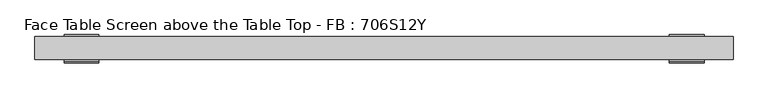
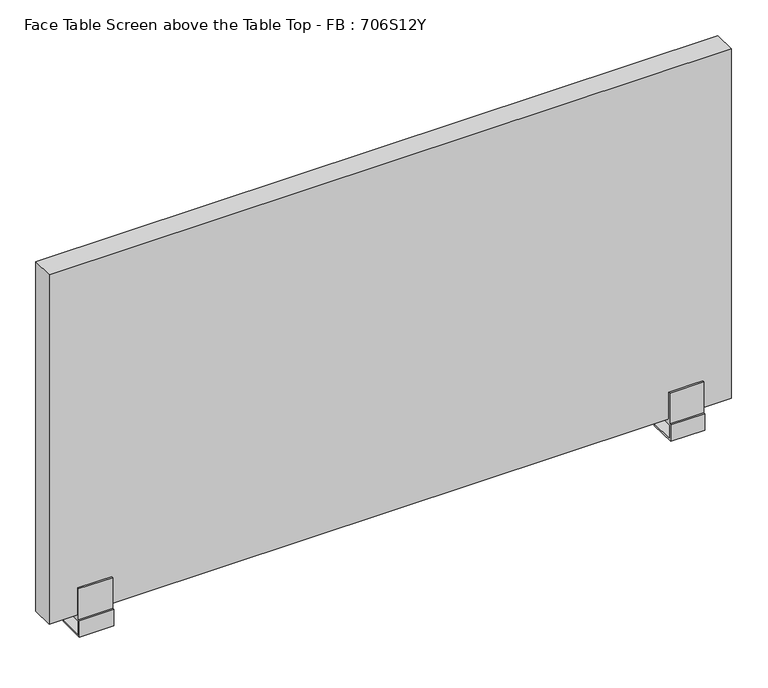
"""IFC4 building model written with IfcOpenShell, lengths in millimetres: furniture geometry, Face Table Screen above the Table Top - FB : 706S12Y."""

import ifcopenshell
import ifcopenshell.guid

model = None  # the IFC model being written
_history = None  # IfcOwnerHistory: only IFC2X3 demands one
_inside = {}  # id of a spatial element -> (the spatial element, [elements in it])
_under = {}  # id of a project, library or spatial element -> (it, [spatial elements below it])
_declared = {}  # id of a project -> (the project, [libraries it declares])
_typed = {}  # id of a type object -> (the type object, [elements of that type])
_made_of = {}  # id of a material, layer set ... -> (it, [elements and type objects made of it])


def new_model(schema):
    """Start an empty IFC model of exactly this schema.

    Asked for "IFC4X3", IfcOpenShell would pick the latest addendum, in which some entities
    have other attributes; the version numbers below select the first issue.
    IFC2X3 requires an IfcOwnerHistory on every rooted entity: one is made here for all.
    """
    global model, _history
    if schema == "IFC4X3":
        model = ifcopenshell.file(schema_version=(4, 3, 0, 0))
    else:
        model = ifcopenshell.file(schema=schema)
    _inside.clear()
    _under.clear()
    _declared.clear()
    _typed.clear()
    _made_of.clear()
    _history = None
    if model.schema == "IFC2X3":
        org = make("IfcOrganization", Name="unknown")
        user = make(
            "IfcPersonAndOrganization",
            ThePerson=make("IfcPerson", FamilyName="unknown"),
            TheOrganization=org,
        )
        app = make(
            "IfcApplication",
            ApplicationDeveloper=org,
            Version="unknown",
            ApplicationFullName="unknown",
            ApplicationIdentifier="unknown",
        )
        _history = make(
            "IfcOwnerHistory",
            OwningUser=user,
            OwningApplication=app,
            ChangeAction="ADDED",
            CreationDate=0,
        )
    return model


def make(cls, **values):
    """One entity of the class cls with the attributes given. An attribute that is None is left unset."""
    return model.create_entity(
        cls, **{name: value for name, value in values.items() if value is not None}
    )


def rooted(cls, **values):
    """An entity with a GlobalId (a new one), such as an element, a storey or a relation."""
    return make(cls, GlobalId=ifcopenshell.guid.new(), OwnerHistory=_history, **values)


def si_unit(unit_type, name, prefix=None):
    """IfcSIUnit, for example si_unit("LENGTHUNIT", "METRE", prefix="MILLI")."""
    return make("IfcSIUnit", UnitType=unit_type, Prefix=prefix, Name=name)


def assignment(units):
    """IfcUnitAssignment: the units of a project."""
    return None if units is None else make("IfcUnitAssignment", Units=units)


def point(xyz):
    """IfcCartesianPoint."""
    return None if xyz is None else make("IfcCartesianPoint", Coordinates=xyz)


def direction(xyz):
    """IfcDirection."""
    return None if xyz is None else make("IfcDirection", DirectionRatios=xyz)


def frame(location, z_axis=None, x_axis=None):
    """IfcAxis2Placement3D, a coordinate frame: its origin and axes. An axis left out is left unset."""
    return make(
        "IfcAxis2Placement3D",
        Location=point(location),
        Axis=direction(z_axis),
        RefDirection=direction(x_axis),
    )


def origin():
    """The frame at (0, 0, 0) with its axes left unset."""
    return frame((0.0, 0.0, 0.0))


def place(relative_to, where):
    """IfcLocalPlacement: puts the frame where relative to a parent placement (None: the world)."""
    return make(
        "IfcLocalPlacement", PlacementRelTo=relative_to, RelativePlacement=where
    )


def context(
    kind, dimensions, precision=None, world=None, true_north=None, identifier=None
):
    """IfcGeometricRepresentationContext, for example the 3D "Model" context."""
    return make(
        "IfcGeometricRepresentationContext",
        ContextIdentifier=identifier,
        ContextType=kind,
        CoordinateSpaceDimension=dimensions,
        Precision=precision,
        WorldCoordinateSystem=world,
        TrueNorth=true_north,
    )


def project(units=None, contexts=None):
    """IfcProject with its units and contexts."""
    return rooted(
        "IfcProject",
        Name="project",
        RepresentationContexts=contexts,
        UnitsInContext=assignment(units),
    )


def spatial(cls, under=None, at=None, **own):
    """A site, building, storey or space (cls), placed at a placement, below another one or the project."""
    s = rooted(cls, ObjectPlacement=at, **own)
    if under is not None:
        _under.setdefault(under.id(), (under, []))[1].append(s)
    return s


def polyline(points):
    """IfcPolyline through the points."""
    return make("IfcPolyline", Points=[point(p) for p in points])


def circle_curve(where, radius):
    """IfcCircle in the frame where."""
    return make("IfcCircle", Position=where, Radius=radius)


def outline(outer, holes=None, kind="AREA"):
    """IfcArbitraryClosedProfileDef: a profile drawn as a closed curve; with holes, ...WithVoids."""
    if holes is None:
        return make("IfcArbitraryClosedProfileDef", ProfileType=kind, OuterCurve=outer)
    return make(
        "IfcArbitraryProfileDefWithVoids",
        ProfileType=kind,
        OuterCurve=outer,
        InnerCurves=holes,
    )


def extrude(swept, where, along, depth):
    """IfcExtrudedAreaSolid: the profile swept, set in the frame where, extruded along a direction by depth."""
    return make(
        "IfcExtrudedAreaSolid",
        SweptArea=swept,
        Position=where,
        ExtrudedDirection=direction(along),
        Depth=depth,
    )


def shape(context_of_items, identifier, shape_type, items):
    """IfcShapeRepresentation: the items that make up one representation, for example the "Body"."""
    return make(
        "IfcShapeRepresentation",
        ContextOfItems=context_of_items,
        RepresentationIdentifier=identifier,
        RepresentationType=shape_type,
        Items=items,
    )


def source(mapping_origin, context_of_items, identifier, shape_type, items):
    """IfcRepresentationMap: a shape defined once, which mapped items show again and again."""
    return make(
        "IfcRepresentationMap",
        MappingOrigin=mapping_origin,
        MappedRepresentation=shape(context_of_items, identifier, shape_type, items),
    )


def transform(
    local_origin,
    x_axis=None,
    y_axis=None,
    z_axis=None,
    scale=None,
    scale2=None,
    scale3=None,
    uniform=True,
):
    """IfcCartesianTransformationOperator3D, or its non-uniform kind. x_axis, y_axis, z_axis: its Axis1, 2, 3."""
    if uniform:
        return make(
            "IfcCartesianTransformationOperator3D",
            Axis1=direction(x_axis),
            Axis2=direction(y_axis),
            LocalOrigin=point(local_origin),
            Scale=scale,
            Axis3=direction(z_axis),
        )
    return make(
        "IfcCartesianTransformationOperator3DnonUniform",
        Axis1=direction(x_axis),
        Axis2=direction(y_axis),
        LocalOrigin=point(local_origin),
        Scale=scale,
        Axis3=direction(z_axis),
        Scale2=scale2,
        Scale3=scale3,
    )


def mapped(mapping_source, mapping_target):
    """IfcMappedItem: shows the shape of a source again, moved by a transform."""
    return make(
        "IfcMappedItem", MappingSource=mapping_source, MappingTarget=mapping_target
    )


def made_of(thing, what):
    """Note that an element or type object is made of a material, layer set ...; save() writes the relation."""
    if what is not None:
        _made_of.setdefault(what.id(), (what, []))[1].append(thing)
    return thing


def element(
    cls,
    number,
    at=None,
    inside=None,
    cuts=None,
    type_object=None,
    material=None,
    context=None,
    identifier="Body",
    shape_type=None,
    held_by="IfcProductDefinitionShape",
    body=None,
    shapes=None,
    **own,
):
    """One element of the class cls, such as IfcWall. Its Tag is "e" and its number.

    at: its placement. inside: the storey or other place that contains it. cuts: it is an
    opening in that element (IfcRelVoidsElement). A single representation is given by context,
    identifier, shape_type and body (its items); several are given by shapes. held_by: the class
    of the entity that holds the representations. save() writes the other relations.
    """
    e = rooted(cls, Tag="e%d" % number, ObjectPlacement=at, **own)
    if body is not None:
        shapes = [shape(context, identifier, shape_type, body)]
    if shapes is not None:
        e.Representation = make(held_by, Representations=shapes)
    if inside is not None:
        _inside.setdefault(inside.id(), (inside, []))[1].append(e)
    if cuts is not None:
        rooted(
            "IfcRelVoidsElement", RelatingBuildingElement=cuts, RelatedOpeningElement=e
        )
    if type_object is not None:
        _typed.setdefault(type_object.id(), (type_object, []))[1].append(e)
    return made_of(e, material)


def aggregate(whole, parts):
    """IfcRelAggregates: a whole, such as a stair, and the parts it consists of."""
    return rooted("IfcRelAggregates", RelatingObject=whole, RelatedObjects=parts)


def save(model, path):
    """Write the relations noted so far, then the file.

    IfcRelAggregates (storeys below a building ...), IfcRelContainedInSpatialStructure (elements
    in a storey), IfcRelDefinesByType, IfcRelAssociatesMaterial and IfcRelDeclares: one each for
    every whole, place, type object, material and project.
    """
    for whole, parts in _under.values():
        aggregate(whole, parts)
    for where, things in _inside.values():
        rooted(
            "IfcRelContainedInSpatialStructure",
            RelatedElements=things,
            RelatingStructure=where,
        )
    for kind, things in _typed.values():
        rooted("IfcRelDefinesByType", RelatedObjects=things, RelatingType=kind)
    for what, things in _made_of.values():
        rooted("IfcRelAssociatesMaterial", RelatedObjects=things, RelatingMaterial=what)
    for by, libraries in _declared.values():
        rooted("IfcRelDeclares", RelatingContext=by, RelatedDefinitions=libraries)
    model.write(path)


def plane_surface(at):
    """IfcPlane: the flat surface through the origin of the frame at, square to its z axis."""
    return make("IfcPlane", Position=at)


def cylinder_surface(at, radius):
    """IfcCylindricalSurface: all points at the distance radius from the z axis of the frame at."""
    return make("IfcCylindricalSurface", Position=at, Radius=radius)


def advanced_brep(points, edges, surfaces, faces):
    """IfcAdvancedBrep: a solid bounded by faces that lie on surfaces and meet in shared edges.

    An edge is (start, end): straight between two places in points (the first is 0);
    or (start, end, curve); or (start, end, curve, False) where it runs against its curve.
    A face is (place in surfaces, loops), or (place, loops, False) where it looks against
    its surface's normal. A loop lists edges by number (the first is 1), with a minus sign
    where the edge is run from its end to its start. The first loop is the outer one.
    """
    corners = [point(p) for p in points]
    vertices = [make("IfcVertexPoint", VertexGeometry=c) for c in corners]
    made = []
    for start, end, *more in edges:
        made.append(
            make(
                "IfcEdgeCurve",
                EdgeStart=vertices[start],
                EdgeEnd=vertices[end],
                EdgeGeometry=more[0] if more else make("IfcPolyline", Points=[corners[start], corners[end]]),
                SameSense=more[1] if len(more) > 1 else True,
            )
        )
    hull = []
    for where, loops, *sense in faces:
        bounds = []
        for j, loop in enumerate(loops):
            ring = [make("IfcOrientedEdge", EdgeElement=made[abs(k) - 1], Orientation=k > 0) for k in loop]
            bounds.append(
                make(
                    "IfcFaceOuterBound" if j == 0 else "IfcFaceBound",
                    Bound=make("IfcEdgeLoop", EdgeList=ring),
                    Orientation=True,
                )
            )
        hull.append(make("IfcAdvancedFace", Bounds=bounds, FaceSurface=surfaces[where], SameSense=sense[0] if sense else True))
    return make("IfcAdvancedBrep", Outer=make("IfcClosedShell", CfsFaces=hull))


def face_table_screen_above_the_table_top_fb_706s12y_cea12252(model_context):
    return source(origin(), model_context, "Body", "SolidModel", [
        advanced_brep(
        [(-525.0, 20.0, -39.4406633), (-515.0, 20.0, -39.4406633), (-515.0, 20.0, -28.0), (-525.0, 20.0, -28.0), (-550.0, 43.0, -25.0), (-550.0, -3.0, -25.0), (-490.0, -3.0, -25.0), (-490.0, 43.0, -25.0), (-550.0, -3.0, 0.0), (-550.0, 43.0, -28.0), (-550.0, -6.0, -28.0), (-550.0, -6.0, 3.0), (-550.0, -3.0, 3.0), (-550.0, -3.0, 60.0), (-550.0, 0.0, 60.0), (-550.0, 0.0, 10.0), (-550.0, 40.0, 10.0), (-550.0, 40.0, 60.0), (-550.0, 43.0, 60.0), (-550.0, 43.0, 0.0), (-490.0, -3.0, 0.0), (-490.0, 43.0, 0.0), (-490.0, 43.0, 60.0), (-490.0, 40.0, 60.0), (-490.0, 40.0, 10.0), (-490.0, 0.0, 10.0), (-490.0, 0.0, 60.0), (-490.0, -3.0, 60.0), (-490.0, -3.0, 3.0), (-490.0, -6.0, 3.0), (-490.0, -6.0, -28.0), (-490.0, 43.0, -28.0)],
        [
            (0, 1, circle_curve(frame((-520.0, 20.0, -39.4406633), z_axis=(0.0, 0.0, -1.0), x_axis=(1.0, 0.0, 0.0)), 5.0)),
            (1, 0, circle_curve(frame((-520.0, 20.0, -39.4406633), z_axis=(0.0, 0.0, -1.0), x_axis=(1.0, 0.0, 0.0)), 5.0)),
            (1, 2),
            (2, 3, circle_curve(frame((-520.0, 20.0, -28.0), z_axis=(0.0, 0.0, -1.0), x_axis=(1.0, 0.0, 0.0)), 5.0)),
            (3, 0),
            (3, 2, circle_curve(frame((-520.0, 20.0, -28.0), z_axis=(0.0, 0.0, -1.0), x_axis=(1.0, 0.0, 0.0)), 5.0)),
            (4, 5),
            (5, 6),
            (6, 7),
            (7, 4),
            (8, 5),
            (4, 9),
            (9, 10),
            (10, 11),
            (11, 12),
            (12, 13),
            (13, 14),
            (14, 15),
            (15, 16),
            (16, 17),
            (17, 18),
            (18, 19),
            (19, 8),
            (20, 21),
            (21, 22),
            (22, 23),
            (23, 24),
            (24, 25),
            (25, 26),
            (26, 27),
            (27, 28),
            (28, 29),
            (29, 30),
            (30, 31),
            (31, 7),
            (6, 20),
            (19, 21),
            (20, 8),
            (18, 22),
            (17, 23),
            (16, 24),
            (15, 25),
            (14, 26),
            (13, 27),
            (12, 28),
            (11, 29),
            (10, 30),
            (9, 31),
        ],
        [
            plane_surface(frame((-515.0, 20.0, -39.4406633), z_axis=(0.0, 0.0, -1.0), x_axis=(0.0, -1.0, 0.0))),
            cylinder_surface(frame((-520.0, 20.0, -39.4406633), z_axis=(0.0, 0.0, 1.0), x_axis=(1.0, 0.0, 0.0)), 5.0),
            plane_surface(frame((-515.0, 20.0, -25.0), z_axis=(0.0, 0.0, 1.0), x_axis=(0.0, 1.0, 0.0))),
            plane_surface(frame((-550.0, 43.0, 0.0), z_axis=(-1.0, 0.0, 0.0), x_axis=(0.0, -1.0, 0.0))),
            plane_surface(frame((-490.0, 43.0, 0.0), z_axis=(1.0, 0.0, 0.0), x_axis=(0.0, 1.0, 0.0))),
            plane_surface(frame((-490.0, -3.0, 0.0), z_axis=(0.0, 0.0, -1.0), x_axis=(-1.0, 0.0, 0.0))),
            plane_surface(frame((-490.0, 43.0, 0.0), z_axis=(0.0, 1.0, 0.0), x_axis=(-1.0, 0.0, 0.0))),
            plane_surface(frame((-490.0, 43.0, 60.0), z_axis=(0.0, 0.0, 1.0), x_axis=(-1.0, 0.0, 0.0))),
            plane_surface(frame((-490.0, 40.0, 60.0), z_axis=(0.0, -1.0, 0.0), x_axis=(-1.0, 0.0, 0.0))),
            plane_surface(frame((-490.0, 40.0, 10.0), z_axis=(0.0, 0.0, 1.0), x_axis=(-1.0, 0.0, 0.0))),
            plane_surface(frame((-490.0, 0.0, 10.0), z_axis=(0.0, 1.0, 0.0), x_axis=(-1.0, 0.0, 0.0))),
            plane_surface(frame((-490.0, 0.0, 60.0), z_axis=(0.0, 0.0, 1.0), x_axis=(-1.0, 0.0, 0.0))),
            plane_surface(frame((-490.0, -3.0, 60.0), z_axis=(0.0, -1.0, 0.0), x_axis=(-1.0, 0.0, 0.0))),
            plane_surface(frame((-490.0, -3.0, 3.0), z_axis=(0.0, 0.0, 1.0), x_axis=(-1.0, 0.0, 0.0))),
            plane_surface(frame((-490.0, -6.0, 3.0), z_axis=(0.0, -1.0, 0.0), x_axis=(-1.0, 0.0, 0.0))),
            plane_surface(frame((-490.0, -6.0, -28.0), z_axis=(0.0, 0.0, -1.0), x_axis=(-1.0, 0.0, 0.0))),
            plane_surface(frame((-490.0, 43.0, -28.0), z_axis=(0.0, 1.0, 0.0), x_axis=(-1.0, 0.0, 0.0))),
            plane_surface(frame((-490.0, -3.0, -25.0), z_axis=(0.0, 1.0, 0.0), x_axis=(-1.0, 0.0, 0.0))),
        ],
        [
            (0, [[1, 2]]),
            (1, [[-2, 3, 4, 5]]),
            (1, [[-1, -5, 6, -3]]),
            (2, [[7, 8, 9, 10]]),
            (3, [[11, -7, 12, 13, 14, 15, 16, 17, 18, 19, 20, 21, 22, 23]]),
            (4, [[24, 25, 26, 27, 28, 29, 30, 31, 32, 33, 34, 35, -9, 36]]),
            (5, [[-23, 37, -24, 38]]),
            (6, [[-22, 39, -25, -37]]),
            (7, [[-21, 40, -26, -39]]),
            (8, [[-20, 41, -27, -40]]),
            (9, [[-19, 42, -28, -41]]),
            (10, [[-18, 43, -29, -42]]),
            (11, [[-17, 44, -30, -43]]),
            (12, [[-16, 45, -31, -44]]),
            (13, [[-15, 46, -32, -45]]),
            (14, [[-14, 47, -33, -46]]),
            (15, [[-13, 48, -34, -47], [-4, -6]]),
            (16, [[-12, -10, -35, -48]]),
            (17, [[-11, -38, -36, -8]]),
        ],
    ),
        advanced_brep(
        [(515.0, 20.0, -39.4406633), (525.0, 20.0, -39.4406633), (525.0, 20.0, -28.0), (515.0, 20.0, -28.0), (490.0, 43.0, -25.0), (490.0, -3.0, -25.0), (550.0, -3.0, -25.0), (550.0, 43.0, -25.0), (490.0, -3.0, 0.0), (490.0, 43.0, -28.0), (490.0, -6.0, -28.0), (490.0, -6.0, 3.0), (490.0, -3.0, 3.0), (490.0, -3.0, 60.0), (490.0, 0.0, 60.0), (490.0, 0.0, 10.0), (490.0, 40.0, 10.0), (490.0, 40.0, 60.0), (490.0, 43.0, 60.0), (490.0, 43.0, 0.0), (550.0, -3.0, 0.0), (550.0, 43.0, 0.0), (550.0, 43.0, 60.0), (550.0, 40.0, 60.0), (550.0, 40.0, 10.0), (550.0, 0.0, 10.0), (550.0, 0.0, 60.0), (550.0, -3.0, 60.0), (550.0, -3.0, 3.0), (550.0, -6.0, 3.0), (550.0, -6.0, -28.0), (550.0, 43.0, -28.0)],
        [
            (0, 1, circle_curve(frame((520.0, 20.0, -39.4406633), z_axis=(0.0, 0.0, -1.0), x_axis=(1.0, 0.0, 0.0)), 5.0)),
            (1, 0, circle_curve(frame((520.0, 20.0, -39.4406633), z_axis=(0.0, 0.0, -1.0), x_axis=(1.0, 0.0, 0.0)), 5.0)),
            (1, 2),
            (2, 3, circle_curve(frame((520.0, 20.0, -28.0), z_axis=(0.0, 0.0, -1.0), x_axis=(1.0, 0.0, 0.0)), 5.0)),
            (3, 0),
            (3, 2, circle_curve(frame((520.0, 20.0, -28.0), z_axis=(0.0, 0.0, -1.0), x_axis=(1.0, 0.0, 0.0)), 5.0)),
            (4, 5),
            (5, 6),
            (6, 7),
            (7, 4),
            (8, 5),
            (4, 9),
            (9, 10),
            (10, 11),
            (11, 12),
            (12, 13),
            (13, 14),
            (14, 15),
            (15, 16),
            (16, 17),
            (17, 18),
            (18, 19),
            (19, 8),
            (20, 21),
            (21, 22),
            (22, 23),
            (23, 24),
            (24, 25),
            (25, 26),
            (26, 27),
            (27, 28),
            (28, 29),
            (29, 30),
            (30, 31),
            (31, 7),
            (6, 20),
            (19, 21),
            (20, 8),
            (18, 22),
            (17, 23),
            (16, 24),
            (15, 25),
            (14, 26),
            (13, 27),
            (12, 28),
            (11, 29),
            (10, 30),
            (9, 31),
        ],
        [
            plane_surface(frame((525.0, 20.0, -39.4406633), z_axis=(0.0, 0.0, -1.0), x_axis=(0.0, -1.0, 0.0))),
            cylinder_surface(frame((520.0, 20.0, -39.4406633), z_axis=(0.0, 0.0, 1.0), x_axis=(1.0, 0.0, 0.0)), 5.0),
            plane_surface(frame((525.0, 20.0, -25.0), z_axis=(0.0, 0.0, 1.0), x_axis=(0.0, 1.0, 0.0))),
            plane_surface(frame((490.0, 43.0, 0.0), z_axis=(-1.0, 0.0, 0.0), x_axis=(0.0, -1.0, 0.0))),
            plane_surface(frame((550.0, 43.0, 0.0), z_axis=(1.0, 0.0, 0.0), x_axis=(0.0, 1.0, 0.0))),
            plane_surface(frame((550.0, -3.0, 0.0), z_axis=(0.0, 0.0, -1.0), x_axis=(-1.0, 0.0, 0.0))),
            plane_surface(frame((550.0, 43.0, 0.0), z_axis=(0.0, 1.0, 0.0), x_axis=(-1.0, 0.0, 0.0))),
            plane_surface(frame((550.0, 43.0, 60.0), z_axis=(0.0, 0.0, 1.0), x_axis=(-1.0, 0.0, 0.0))),
            plane_surface(frame((550.0, 40.0, 60.0), z_axis=(0.0, -1.0, 0.0), x_axis=(-1.0, 0.0, 0.0))),
            plane_surface(frame((550.0, 40.0, 10.0), z_axis=(0.0, 0.0, 1.0), x_axis=(-1.0, 0.0, 0.0))),
            plane_surface(frame((550.0, 0.0, 10.0), z_axis=(0.0, 1.0, 0.0), x_axis=(-1.0, 0.0, 0.0))),
            plane_surface(frame((550.0, 0.0, 60.0), z_axis=(0.0, 0.0, 1.0), x_axis=(-1.0, 0.0, 0.0))),
            plane_surface(frame((550.0, -3.0, 60.0), z_axis=(0.0, -1.0, 0.0), x_axis=(-1.0, 0.0, 0.0))),
            plane_surface(frame((550.0, -3.0, 3.0), z_axis=(0.0, 0.0, 1.0), x_axis=(-1.0, 0.0, 0.0))),
            plane_surface(frame((550.0, -6.0, 3.0), z_axis=(0.0, -1.0, 0.0), x_axis=(-1.0, 0.0, 0.0))),
            plane_surface(frame((550.0, -6.0, -28.0), z_axis=(0.0, 0.0, -1.0), x_axis=(-1.0, 0.0, 0.0))),
            plane_surface(frame((550.0, 43.0, -28.0), z_axis=(0.0, 1.0, 0.0), x_axis=(-1.0, 0.0, 0.0))),
            plane_surface(frame((550.0, -3.0, -25.0), z_axis=(0.0, 1.0, 0.0), x_axis=(-1.0, 0.0, 0.0))),
        ],
        [
            (0, [[1, 2]]),
            (1, [[-2, 3, 4, 5]]),
            (1, [[-1, -5, 6, -3]]),
            (2, [[7, 8, 9, 10]]),
            (3, [[11, -7, 12, 13, 14, 15, 16, 17, 18, 19, 20, 21, 22, 23]]),
            (4, [[24, 25, 26, 27, 28, 29, 30, 31, 32, 33, 34, 35, -9, 36]]),
            (5, [[-23, 37, -24, 38]]),
            (6, [[-22, 39, -25, -37]]),
            (7, [[-21, 40, -26, -39]]),
            (8, [[-20, 41, -27, -40]]),
            (9, [[-19, 42, -28, -41]]),
            (10, [[-18, 43, -29, -42]]),
            (11, [[-17, 44, -30, -43]]),
            (12, [[-16, 45, -31, -44]]),
            (13, [[-15, 46, -32, -45]]),
            (14, [[-14, 47, -33, -46]]),
            (15, [[-13, 48, -34, -47], [-4, -6]]),
            (16, [[-12, -10, -35, -48]]),
            (17, [[-11, -38, -36, -8]]),
        ],
    ),
        extrude(outline(polyline([(600.0, 0.0), (-600.0, 0.0), (-600.0, 40.0), (600.0, 40.0), (600.0, 0.0)])), frame((0.0, 0.0, 10.0), z_axis=(0.0, 0.0, 1.0), x_axis=(1.0, 0.0, 0.0)), (0.0, 0.0, 1.0), 650.0),
    ])


if __name__ == "__main__":
    model = new_model("IFC4")
    model_context = context("Model", 3, world=origin())
    ifc_project = project(units=[si_unit("LENGTHUNIT", "METRE", prefix="MILLI")], contexts=[model_context])
    site = spatial("IfcSite", under=ifc_project)
    building = spatial("IfcBuilding", under=site)
    placement = place(None, origin())
    face_table_screen_above_the_table_top_fb_706s12y_shape = face_table_screen_above_the_table_top_fb_706s12y_cea12252(model_context)
    element("IfcFurniture", 1, ObjectType="Face Table Screen above the Table Top - FB : 706S12Y", at=placement, inside=building, context=model_context, shape_type="MappedRepresentation", body=[
        mapped(face_table_screen_above_the_table_top_fb_706s12y_shape, transform((0.0, 0.0, 0.0), x_axis=(1.0, 0.0, 0.0), y_axis=(0.0, 1.0, 0.0), z_axis=(0.0, 0.0, 1.0))),
    ])
    save(model, "model.ifc")
